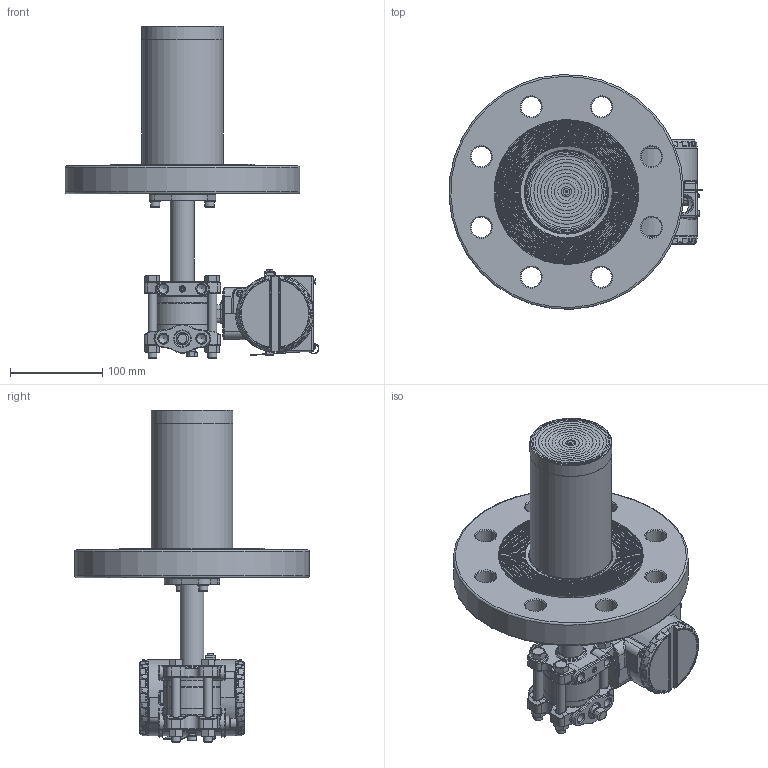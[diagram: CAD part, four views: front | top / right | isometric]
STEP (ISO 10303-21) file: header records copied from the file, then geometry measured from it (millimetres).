
FILE_DESCRIPTION(/* description */ (''),/* implementation_level */ '2;1');
FILE_NAME(/* name */ 'F:\Area\Desenvolvimento_2\Projects\Sensor\projetos\LD30X\montagens 3d - clientes\SELO NIVEL\LD30XL 4-300 RF ext 150 ref 1-4NPT purga acima.stp',/* time_stamp */ '2023-02-15T08:30:01-03:00',/* author */ ('inventor02'),/* organization */ (''),/* preprocessor_version */ 'ST-DEVELOPER v17',/* originating_system */ 'Autodesk Inventor 2019',/* authorisation */ '');
FILE_SCHEMA (('CONFIG_CONTROL_DESIGN'));
Products named in the file (41): LD30XL 4-300 RF ext 150 ref 1-4NPT purga acima; 204-0301-L-4 300 RF ext 150 purga acima; nivel fx3 com baixa diferencial 1-4NPT purga acima; involucro fx0-3 apos a usinagem final; flange diferencial std purga; 101-C-7484-01 flange selo nivel VR; 201-A-0504-tubo união teste 1; bujao 1-4NPT; Sangria; Porca 3-8 x 16 UNC; Paraf. 3-8 x 16 UNC; adaptação tubo x flanges 1-1-2 a 4pol; 101-B-0161-anel cortado do tubo - teste1; 101-B-0162-flange fixação tubo; ANSI B18.3.1M - M6x1 x 16; DIN 127 - A 6; flange 4 300 ext 150; 101-C-0123-09; 096-B-0212-15; 101-B-7702-02 ext 4-150; carcaça vazia com tampas e plaqueta; carcaça LD inox sem letras; Subconjunto plaqueta 300; Plaqueta transmissor; Parafuso da Plaqueta; Rebite da Plaqueta; 096-A-0169-03; 101-A-0502-01; Chapa aterramento externo; ISO 1207 - M4 x 8; DIN 915 - M6 x 10; ANSI B18.3.1M - M4x0,7 x 8; Subconjunto tampa com visor aluminio; tampa pintada; VIDRO DO VISOR; oring 41x1 vidro tampa; Trava do vidro da tampa com visor; trava do vidro VH256; Subconjunto tampa sem visor-aluminio; tampa cega 300 pintada p0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
Assembly tree (51 placements, depth 4):
  LD30XL 4-300 RF ext 150 ref 1-4NPT purga acima
    204-0301-L-4 300 RF ext 150 purga acima
      nivel fx3 com baixa diferencial 1-4NPT purga acima
        involucro fx0-3 apos a usinagem final
        flange diferencial std purga
        101-C-7484-01 flange selo nivel VR
        201-A-0504-tubo união teste 1
        DIN 915 - M6 x 10
        bujao 1-4NPT
        Sangria
        Porca 3-8 x 16 UNC  x4
        Paraf. 3-8 x 16 UNC  x4
      adaptação tubo x flanges 1-1-2 a 4pol
        101-B-0161-anel cortado do tubo - teste1
        101-B-0162-flange fixação tubo
        ANSI B18.3.1M - M6x1 x 16  x2
        DIN 127 - A 6  x2
      flange 4 300 ext 150
        101-C-0123-09
        096-B-0212-15
        101-B-7702-02 ext 4-150
    carcaça vazia com tampas e plaqueta
      carcaça LD inox sem letras
      Subconjunto plaqueta 300
        Plaqueta transmissor
        Parafuso da Plaqueta
        Rebite da Plaqueta
        096-A-0169-03
        101-A-0502-01
      Chapa aterramento externo
      ISO 1207 - M4 x 8
      DIN 915 - M6 x 10
      ANSI B18.3.1M - M4x0,7 x 8  x2
      Subconjunto tampa com visor aluminio
        tampa pintada
        VIDRO DO VISOR
        oring 41x1 vidro tampa
        Trava do vidro da tampa com visor
        trava do vidro VH256
        00034775-0
      Subconjunto tampa sem visor-aluminio
        tampa cega 300 pintada p0
        00034775-0
Bounding box: 275.66 x 254.76 x 360.5 mm (x, y, z)
Volume: 2357192.3 mm3; surface area: 484688.1 mm2
Topology: 43 solids, 43 shells, 2799 faces, 6669 edges, 3956 vertices
Faces by surface type: bspline 666, cylinder 660, plane 590, torus 501, cone 256, sphere 126
Full cylindrical faces by diameter (mm): 2 x4, 2.1 x2, 2.459 x5, 2.5 x1, 2.642 x1, 2.7 x1, 2.8 x1, 3 x4, 3.242 x4, 3.5 x5, 3.571 x1, 4 x5, 4.3 x1, 4.4 x1, 4.917 x4, 5 x1, 5.5 x3, 6 x6, 6.647 x1, 7 x7, 7.087 x2, 7.6 x2, 7.798 x4, 8 x1, 8.7 x2, 9.525 x4, 9.728 x6, 10 x2, 10.5 x8, 10.719 x2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
Entity records: 96160 total; most frequent: CARTESIAN_POINT 34873, DIRECTION 12703, ORIENTED_EDGE 12518, EDGE_CURVE 6259, AXIS2_PLACEMENT_3D 5624, VERTEX_POINT 3762, CIRCLE 3335, EDGE_LOOP 2877
